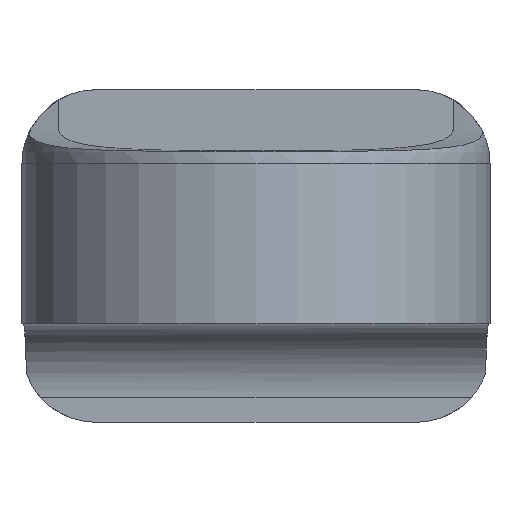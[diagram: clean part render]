
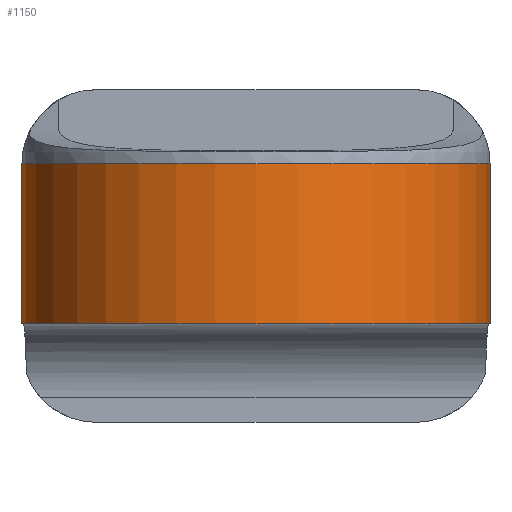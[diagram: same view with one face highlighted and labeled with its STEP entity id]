
A CAD part, left-side view. The second image highlights one B-rep face of the part: STEP entity #1150.
In plain terms, the highlighted cylindrical face has radius 19 mm (diameter 38 mm), a partial arc.
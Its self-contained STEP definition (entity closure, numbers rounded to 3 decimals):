
#17=CYLINDRICAL_SURFACE('',#1244,19.);
#83=CIRCLE('',#1230,19.);
#94=CIRCLE('',#1245,19.);
#137=FACE_OUTER_BOUND('',#210,.T.);
#210=EDGE_LOOP('',(#841,#842,#843,#844));
#287=LINE('',#1737,#392);
#293=LINE('',#1754,#398);
#392=VECTOR('',#1384,13.);
#398=VECTOR('',#1396,13.);
#490=VERTEX_POINT('',#1722);
#497=VERTEX_POINT('',#1735);
#498=VERTEX_POINT('',#1739);
#505=VERTEX_POINT('',#1752);
#614=EDGE_CURVE('',#497,#490,#287,.F.);
#622=EDGE_CURVE('',#505,#498,#293,.T.);
#634=EDGE_CURVE('',#498,#497,#83,.F.);
#656=EDGE_CURVE('',#505,#490,#94,.F.);
#841=ORIENTED_EDGE('',*,*,#622,.F.);
#842=ORIENTED_EDGE('',*,*,#656,.T.);
#843=ORIENTED_EDGE('',*,*,#614,.F.);
#844=ORIENTED_EDGE('',*,*,#634,.F.);
#1150=ADVANCED_FACE('',(#137),#17,.T.);
#1230=AXIS2_PLACEMENT_3D('',#1779,#1414,#1415);
#1244=AXIS2_PLACEMENT_3D('',#1847,#1451,#1452);
#1245=AXIS2_PLACEMENT_3D('',#1848,#1453,#1454);
#1384=DIRECTION('',(0.,0.,-1.));
#1396=DIRECTION('',(0.,0.,-1.));
#1414=DIRECTION('center_axis',(0.,0.,1.));
#1415=DIRECTION('ref_axis',(1.,0.,0.));
#1451=DIRECTION('center_axis',(0.,0.,-1.));
#1452=DIRECTION('ref_axis',(-1.,0.,0.));
#1453=DIRECTION('center_axis',(0.,0.,1.));
#1454=DIRECTION('ref_axis',(1.,0.,0.));
#1722=CARTESIAN_POINT('',(-41.,19.,13.));
#1735=CARTESIAN_POINT('',(-41.,19.,0.));
#1737=CARTESIAN_POINT('',(-41.,19.,13.));
#1739=CARTESIAN_POINT('',(-41.,-19.,0.));
#1752=CARTESIAN_POINT('',(-41.,-19.,13.));
#1754=CARTESIAN_POINT('',(-41.,-19.,13.));
#1779=CARTESIAN_POINT('Origin',(-41.,0.,0.));
#1847=CARTESIAN_POINT('Origin',(-41.,0.,0.));
#1848=CARTESIAN_POINT('Origin',(-41.,0.,13.));
